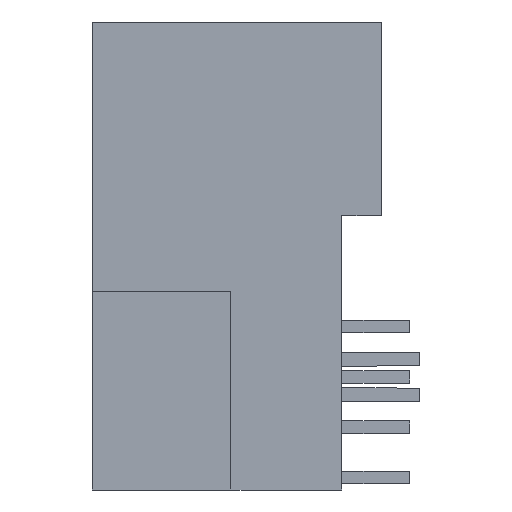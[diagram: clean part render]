
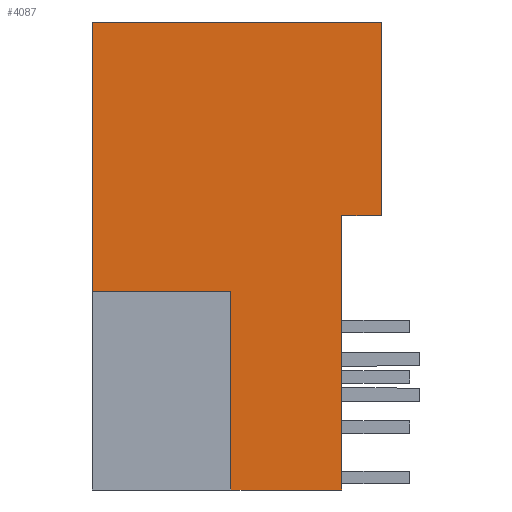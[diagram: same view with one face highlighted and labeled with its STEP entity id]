
A CAD part, left-side view. The second image highlights one B-rep face of the part: STEP entity #4087.
In plain terms, the highlighted planar face has unit normal (-1, 0, 0).
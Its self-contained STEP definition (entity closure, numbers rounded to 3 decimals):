
#1598 = EDGE_LOOP ( 'NONE', ( #2553, #2552, #2551, #2549, #2548, #2546, #2545, #2544 ) ) ;
#2544 = ORIENTED_EDGE ( 'NONE', *, *, #8507, .T. ) ;
#2545 = ORIENTED_EDGE ( 'NONE', *, *, #8250, .T. ) ;
#2546 = ORIENTED_EDGE ( 'NONE', *, *, #8267, .T. ) ;
#2548 = ORIENTED_EDGE ( 'NONE', *, *, #7860, .T. ) ;
#2549 = ORIENTED_EDGE ( 'NONE', *, *, #8620, .T. ) ;
#2551 = ORIENTED_EDGE ( 'NONE', *, *, #4072, .T. ) ;
#2552 = ORIENTED_EDGE ( 'NONE', *, *, #8083, .F. ) ;
#2553 = ORIENTED_EDGE ( 'NONE', *, *, #8082, .T. ) ;
#3652 = VECTOR ( 'NONE', #15457, 1000. ) ;
#3891 = VECTOR ( 'NONE', #15675, 1000. ) ;
#4072 = EDGE_CURVE ( 'NONE', #5641, #6167, #15829, .T. ) ;
#4087 = ADVANCED_FACE ( 'NONE', ( #9691 ), #9697, .T. ) ;
#5611 = VERTEX_POINT ( 'NONE', #15182 ) ;
#5641 = VERTEX_POINT ( 'NONE', #15234 ) ;
#5868 = VERTEX_POINT ( 'NONE', #12908 ) ;
#5908 = VERTEX_POINT ( 'NONE', #12976 ) ;
#6012 = VERTEX_POINT ( 'NONE', #13148 ) ;
#6167 = VERTEX_POINT ( 'NONE', #13405 ) ;
#6170 = VERTEX_POINT ( 'NONE', #13410 ) ;
#6225 = VERTEX_POINT ( 'NONE', #13498 ) ;
#7860 = EDGE_CURVE ( 'NONE', #6170, #5611, #13726, .T. ) ;
#8082 = EDGE_CURVE ( 'NONE', #6012, #5868, #9897, .T. ) ;
#8083 = EDGE_CURVE ( 'NONE', #5641, #5868, #9908, .T. ) ;
#8250 = EDGE_CURVE ( 'NONE', #6225, #5908, #10754, .T. ) ;
#8267 = EDGE_CURVE ( 'NONE', #5611, #6225, #10805, .T. ) ;
#8507 = EDGE_CURVE ( 'NONE', #5908, #6012, #15455, .T. ) ;
#8620 = EDGE_CURVE ( 'NONE', #6167, #6170, #15673, .T. ) ;
#9688 = DIRECTION ( 'NONE',  ( 0., 0., 1. ) ) ;
#9689 = DIRECTION ( 'NONE',  ( -1., 0., 0. ) ) ;
#9691 = FACE_OUTER_BOUND ( 'NONE', #1598, .T. ) ;
#9695 = CARTESIAN_POINT ( 'NONE',  ( -30.069, -4.226, -9.78 ) ) ;
#9697 = PLANE ( 'NONE',  #12911 ) ;
#9888 = CARTESIAN_POINT ( 'NONE',  ( -30.069, -4.226, 0. ) ) ;
#9897 = LINE ( 'NONE', #9888, #11327 ) ;
#9907 = DIRECTION ( 'NONE',  ( 0., 1., 0. ) ) ;
#9908 = LINE ( 'NONE', #9909, #11244 ) ;
#9909 = CARTESIAN_POINT ( 'NONE',  ( -30.069, 10.374, -13.62 ) ) ;
#9910 = DIRECTION ( 'NONE',  ( 0., 0., 1. ) ) ;
#10754 = LINE ( 'NONE', #10755, #11908 ) ;
#10755 = CARTESIAN_POINT ( 'NONE',  ( -30.069, -2.216, -9.78 ) ) ;
#10756 = DIRECTION ( 'NONE',  ( 0., -1., 0. ) ) ;
#10805 = LINE ( 'NONE', #10806, #11935 ) ;
#10806 = CARTESIAN_POINT ( 'NONE',  ( -30.069, -2.216, -23.62 ) ) ;
#10807 = DIRECTION ( 'NONE',  ( 0., 0., 1. ) ) ;
#11244 = VECTOR ( 'NONE', #9910, 1000. ) ;
#11327 = VECTOR ( 'NONE', #9907, 1000. ) ;
#11392 = VECTOR ( 'NONE', #13736, 1000. ) ;
#11908 = VECTOR ( 'NONE', #10756, 1000. ) ;
#11935 = VECTOR ( 'NONE', #10807, 1000. ) ;
#12508 = VECTOR ( 'NONE', #15826, 1000. ) ;
#12908 = CARTESIAN_POINT ( 'NONE',  ( -30.069, 10.374, 0. ) ) ;
#12911 = AXIS2_PLACEMENT_3D ( 'NONE', #9695, #9689, #9688 ) ;
#12976 = CARTESIAN_POINT ( 'NONE',  ( -30.069, -4.226, -9.78 ) ) ;
#13148 = CARTESIAN_POINT ( 'NONE',  ( -30.069, -4.226, 0. ) ) ;
#13405 = CARTESIAN_POINT ( 'NONE',  ( -30.069, 3.374, -13.62 ) ) ;
#13410 = CARTESIAN_POINT ( 'NONE',  ( -30.069, 3.374, -23.62 ) ) ;
#13498 = CARTESIAN_POINT ( 'NONE',  ( -30.069, -2.216, -9.78 ) ) ;
#13726 = LINE ( 'NONE', #13735, #11392 ) ;
#13735 = CARTESIAN_POINT ( 'NONE',  ( -30.069, 3.374, -23.62 ) ) ;
#13736 = DIRECTION ( 'NONE',  ( 0., -1., 0. ) ) ;
#15182 = CARTESIAN_POINT ( 'NONE',  ( -30.069, -2.216, -23.62 ) ) ;
#15234 = CARTESIAN_POINT ( 'NONE',  ( -30.069, 10.374, -13.62 ) ) ;
#15455 = LINE ( 'NONE', #15456, #3652 ) ;
#15456 = CARTESIAN_POINT ( 'NONE',  ( -30.069, -4.226, -9.78 ) ) ;
#15457 = DIRECTION ( 'NONE',  ( 0., 0., 1. ) ) ;
#15673 = LINE ( 'NONE', #15674, #3891 ) ;
#15674 = CARTESIAN_POINT ( 'NONE',  ( -30.069, 3.374, -13.62 ) ) ;
#15675 = DIRECTION ( 'NONE',  ( 0., 0., -1. ) ) ;
#15826 = DIRECTION ( 'NONE',  ( 0., -1., 0. ) ) ;
#15827 = CARTESIAN_POINT ( 'NONE',  ( -30.069, 10.354, -13.62 ) ) ;
#15829 = LINE ( 'NONE', #15827, #12508 ) ;
